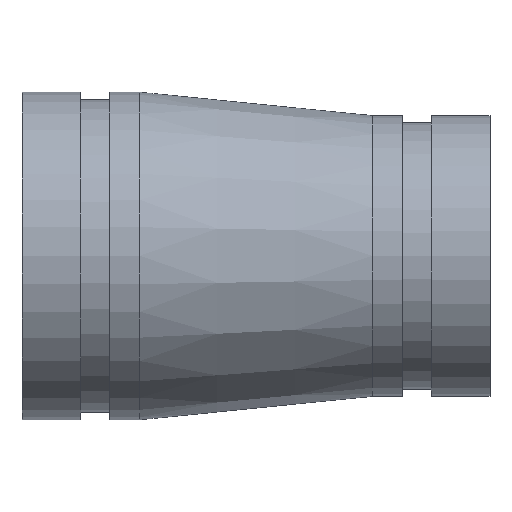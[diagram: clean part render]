
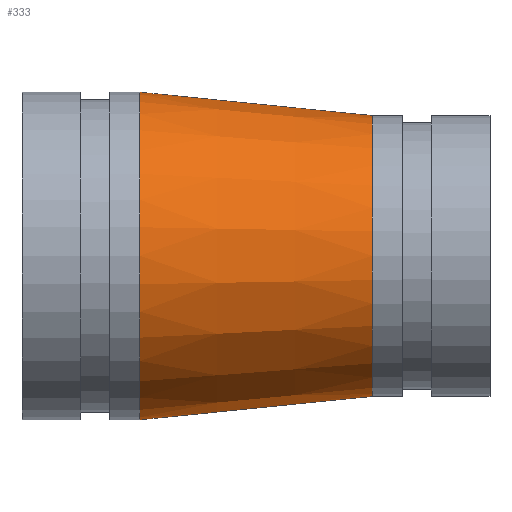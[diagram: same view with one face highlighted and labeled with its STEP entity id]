
A CAD part, top view. The second image highlights one B-rep face of the part: STEP entity #333.
In plain terms, the highlighted conical face has half-angle 5.756 degrees and reference radius 41.275 mm.
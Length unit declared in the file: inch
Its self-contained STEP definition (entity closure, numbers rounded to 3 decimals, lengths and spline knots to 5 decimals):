
#65=FACE_OUTER_BOUND('',#81,.T.);
#81=EDGE_LOOP('',(#229,#230,#231,#232,#233,#234));
#103=LINE('',#571,#113);
#113=VECTOR('',#438,1.625);
#123=CIRCLE('',#370,1.5);
#124=CIRCLE('',#371,1.5);
#125=CIRCLE('',#372,1.75);
#126=CIRCLE('',#373,1.75);
#155=VERTEX_POINT('',#566);
#156=VERTEX_POINT('',#567);
#157=VERTEX_POINT('',#570);
#158=VERTEX_POINT('',#572);
#187=EDGE_CURVE('',#155,#156,#123,.T.);
#188=EDGE_CURVE('',#156,#155,#124,.T.);
#189=EDGE_CURVE('',#156,#157,#103,.T.);
#190=EDGE_CURVE('',#157,#158,#125,.T.);
#191=EDGE_CURVE('',#158,#157,#126,.T.);
#229=ORIENTED_EDGE('',*,*,#187,.F.);
#230=ORIENTED_EDGE('',*,*,#188,.F.);
#231=ORIENTED_EDGE('',*,*,#189,.T.);
#232=ORIENTED_EDGE('',*,*,#190,.T.);
#233=ORIENTED_EDGE('',*,*,#191,.T.);
#234=ORIENTED_EDGE('',*,*,#189,.F.);
#313=CONICAL_SURFACE('',#369,1.625,0.1);
#333=ADVANCED_FACE('',(#65),#313,.T.);
#369=AXIS2_PLACEMENT_3D('',#565,#432,#433);
#370=AXIS2_PLACEMENT_3D('',#568,#434,#435);
#371=AXIS2_PLACEMENT_3D('',#569,#436,#437);
#372=AXIS2_PLACEMENT_3D('',#573,#439,#440);
#373=AXIS2_PLACEMENT_3D('',#574,#441,#442);
#432=DIRECTION('center_axis',(-1.,0.,0.));
#433=DIRECTION('ref_axis',(0.,1.,0.));
#434=DIRECTION('center_axis',(1.,0.,0.));
#435=DIRECTION('ref_axis',(0.,1.,0.));
#436=DIRECTION('center_axis',(1.,0.,0.));
#437=DIRECTION('ref_axis',(0.,1.,0.));
#438=DIRECTION('',(-0.995,-0.1,0.));
#439=DIRECTION('center_axis',(1.,0.,0.));
#440=DIRECTION('ref_axis',(0.,1.,0.));
#441=DIRECTION('center_axis',(1.,0.,0.));
#442=DIRECTION('ref_axis',(0.,1.,0.));
#565=CARTESIAN_POINT('Origin',(2.5,0.,0.));
#566=CARTESIAN_POINT('',(3.74,1.5,0.));
#567=CARTESIAN_POINT('',(3.74,-1.5,0.));
#568=CARTESIAN_POINT('Origin',(3.74,0.,0.));
#569=CARTESIAN_POINT('Origin',(3.74,0.,0.));
#570=CARTESIAN_POINT('',(1.26,-1.75,0.));
#571=CARTESIAN_POINT('',(2.5,-1.625,0.));
#572=CARTESIAN_POINT('',(1.26,1.75,0.));
#573=CARTESIAN_POINT('Origin',(1.26,0.,0.));
#574=CARTESIAN_POINT('Origin',(1.26,0.,0.));
